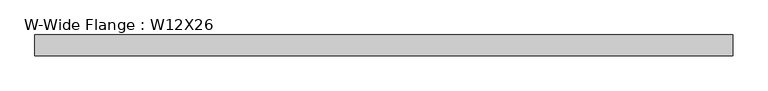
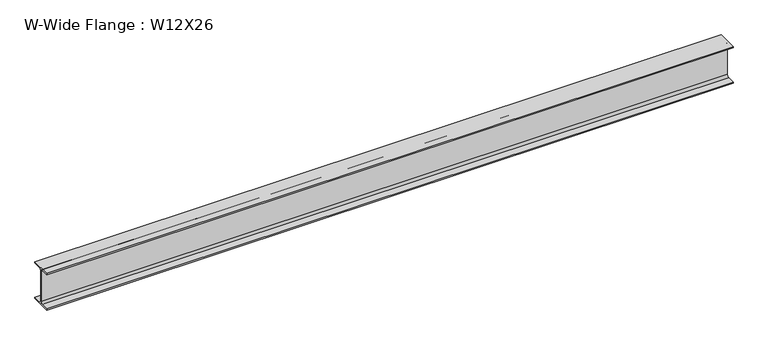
"""IFC4 building model written with IfcOpenShell, lengths in millimetres: beam geometry, W-Wide Flange : W12X26."""

from ifc_helpers import new_model, si_unit, point, frame, frame_2d, origin, place, context, project, spatial, polyline, circle_curve, trimmed, segment, composite_curve, outline, extrude, source, transform, mapped, element, save


def w_wide_flange_w12x26_2d7df239(model_context):
    return source(origin(), model_context, "Body", "SweptSolid", [
        extrude(outline(composite_curve([segment(polyline([(82.4011719, -145.5539063), (82.4011719, -155.178125), (-82.4011719, -155.178125), (-82.4011719, -145.5539063), (-20.2902344, -145.5539063)]), True, "CONTINUOUS"), segment(trimmed(circle_curve(frame_2d((-20.2902344, -128.190625)), 17.3632812), [point((-20.2902344, -145.5539063))], [point((-2.9269531, -128.190625))], True, "CARTESIAN"), True, "CONTINUOUS"), segment(polyline([(-2.9269531, -128.190625), (-2.9269531, 128.190625)]), True, "CONTINUOUS"), segment(trimmed(circle_curve(frame_2d((-20.2902344, 128.190625)), 17.3632812), [point((-2.9269531, 128.190625))], [point((-20.2902344, 145.5539062))], True, "CARTESIAN"), True, "CONTINUOUS"), segment(polyline([(-20.2902344, 145.5539062), (-82.4011719, 145.5539062), (-82.4011719, 155.178125), (82.4011719, 155.178125), (82.4011719, 145.5539062), (20.2902344, 145.5539062)]), True, "CONTINUOUS"), segment(trimmed(circle_curve(frame_2d((20.2902344, 128.190625)), 17.3632812), [point((20.2902344, 145.5539062))], [point((2.9269531, 128.190625))], True, "CARTESIAN"), True, "CONTINUOUS"), segment(polyline([(2.9269531, 128.190625), (2.9269531, -128.190625)]), True, "CONTINUOUS"), segment(trimmed(circle_curve(frame_2d((20.2902344, -128.190625)), 17.3632812), [point((2.9269531, -128.190625))], [point((20.2902344, -145.5539063))], True, "CARTESIAN"), True, "CONTINUOUS"), segment(polyline([(20.2902344, -145.5539063), (82.4011719, -145.5539063)]), True, "CONTINUOUS")], self_intersect=False)), frame((-2725.4602969, 0.0, 0.0), z_axis=(1.0, 0.0, 0.0), x_axis=(0.0, 1.0, 0.0)), (0.0, 0.0, 1.0), 5505.3344337),
    ])


if __name__ == "__main__":
    model = new_model("IFC4")
    model_context = context("Model", 3, world=origin())
    ifc_project = project(units=[si_unit("LENGTHUNIT", "METRE", prefix="MILLI")], contexts=[model_context])
    site = spatial("IfcSite", under=ifc_project)
    building = spatial("IfcBuilding", under=site)
    placement = place(None, origin())
    w_wide_flange_w12x26_shape = w_wide_flange_w12x26_2d7df239(model_context)
    element("IfcBeam", 1, ObjectType="W-Wide Flange : W12X26", at=placement, inside=building, context=model_context, shape_type="MappedRepresentation", body=[
        mapped(w_wide_flange_w12x26_shape, transform((0.0, 0.0, 0.0), x_axis=(1.0, 0.0, 0.0), y_axis=(0.0, 1.0, 0.0), z_axis=(0.0, 0.0, 1.0))),
    ])
    save(model, "model.ifc")
